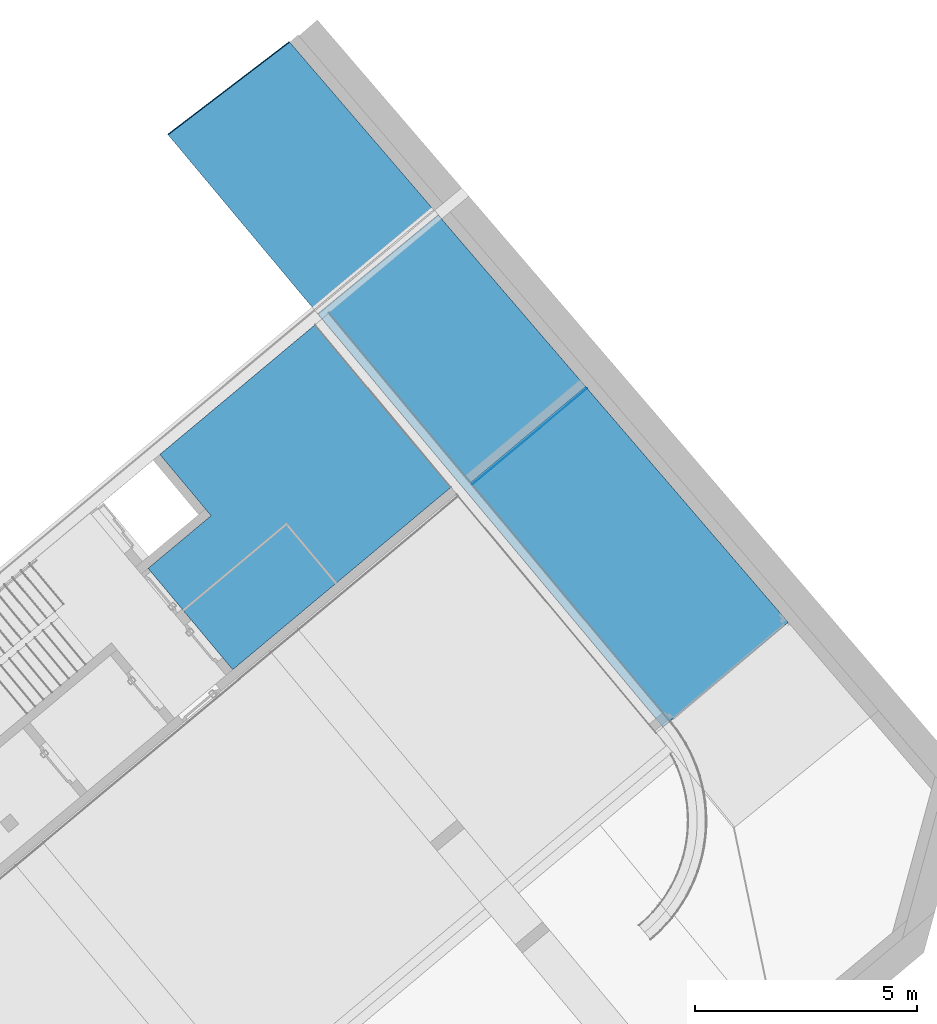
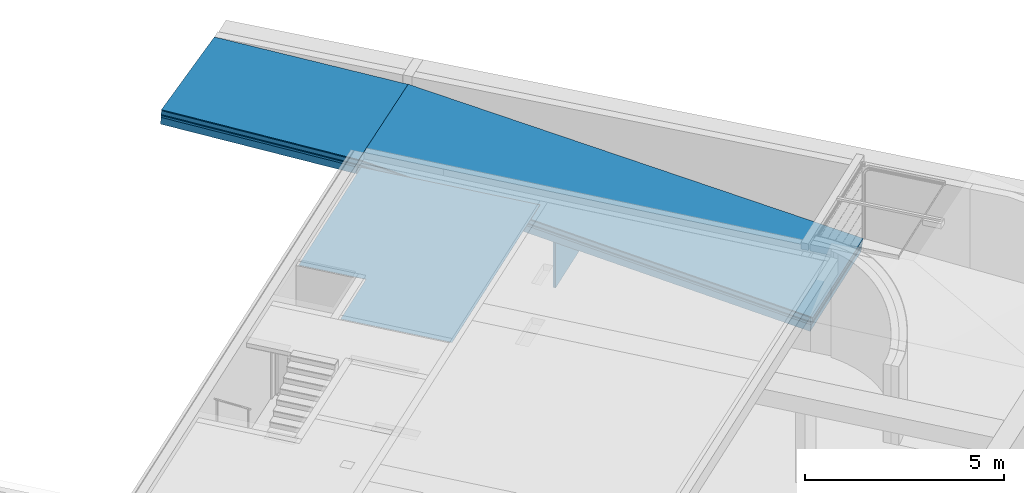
# One storey, part 12 of 14: 13 building element parts, 4 elements without a shape of their own.
"""IFC4 building model written with IfcOpenShell, lengths in metres."""

from ifc_helpers import new_model, entity, si_unit, converted_unit, derived_unit, direction, frame, origin_with_axes, place, context, subcontext, project, spatial, polygons, material, type_object, element, aggregate, save


model = new_model("IFC4")

# Units and contexts
model_context = context("Model", 3, precision=1e-05, world=origin_with_axes(), true_north=direction((0.0, 1.0)))
body_context = subcontext(model_context, "Body", "Model", "MODEL_VIEW")
ifc_project = project(units=[si_unit("LENGTHUNIT", "METRE"), si_unit("AREAUNIT", "SQUARE_METRE"), si_unit("VOLUMEUNIT", "CUBIC_METRE"), converted_unit("PLANEANGLEUNIT", "DEGREE", entity("IfcPlaneAngleMeasure", 0.0174532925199), si_unit("PLANEANGLEUNIT", "RADIAN"), dimensions=[0, 0, 0, 0, 0, 0, 0]), converted_unit("TIMEUNIT", "Year", entity("IfcTimeMeasure", 31556926.0), si_unit("TIMEUNIT", "SECOND"), dimensions=[0, 0, 1, 0, 0, 0, 0]), si_unit("MASSUNIT", "GRAM", prefix="KILO"), si_unit("THERMODYNAMICTEMPERATUREUNIT", "DEGREE_CELSIUS"), si_unit("LUMINOUSINTENSITYUNIT", "LUMEN"), si_unit("ENERGYUNIT", "JOULE", prefix="MEGA"), derived_unit("THERMALCONDUCTANCEUNIT", [(si_unit("POWERUNIT", "WATT"), 1), (si_unit("LENGTHUNIT", "METRE"), -1), (si_unit("THERMODYNAMICTEMPERATUREUNIT", "KELVIN"), -1)]), derived_unit("SPECIFICHEATCAPACITYUNIT", [(si_unit("ENERGYUNIT", "JOULE"), 1), (si_unit("MASSUNIT", "GRAM", prefix="KILO"), -1), (si_unit("THERMODYNAMICTEMPERATUREUNIT", "KELVIN"), -1)]), derived_unit("MASSDENSITYUNIT", [(si_unit("MASSUNIT", "GRAM", prefix="KILO"), 1), (si_unit("VOLUMEUNIT", "CUBIC_METRE"), -1)])], contexts=[model_context])

# Site, building, storey
site_placement = place(None, frame((-0.00153261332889, -0.00661245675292, 0.0), z_axis=(0.0, 0.0, 1.0), x_axis=(1.0, 0.0, 0.0)))
site = spatial("IfcSite", under=ifc_project, at=site_placement, Name="Gelände", CompositionType="ELEMENT")
building_placement = place(site_placement, origin_with_axes())
building = spatial("IfcBuilding", under=site, at=building_placement, Name="Gebäude", CompositionType="ELEMENT")
storey_placement = place(building_placement, frame((0.0, 0.0, -3.3), z_axis=(0.0, 0.0, 1.0), x_axis=(1.0, 0.0, 0.0)))
storey = spatial("IfcBuildingStorey", under=building, at=storey_placement, Name="UG1", CompositionType="ELEMENT", Elevation=-3.3)

# Covering, building element parts
covering_type_1 = type_object("IfcCoveringType", Name="LB 6,5 cm einfach Vorsatzschale 65", PredefinedType="NOTDEFINED")
covering_1_placement = place(storey_placement, frame((8.76827841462, 26.5724893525, 0.0), z_axis=(0.0, 0.0, 1.0), x_axis=(0.767365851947, 0.641209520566, 0.0)))
covering_1 = element("IfcCovering", 1, at=covering_1_placement, inside=storey, type_object=covering_type_1, Name="Wand-007", PredefinedType="NOTDEFINED")
ifc_material_1 = material(Name="Mineralwolle weich")
building_element_part_1_placement = place(covering_1_placement, origin_with_axes())
building_element_part_1 = element("IfcBuildingElementPart", 2, at=building_element_part_1_placement, material=ifc_material_1, Name="Mineralwolle weich", PredefinedType="NOTDEFINED", context=body_context, shape_type="Tessellation", body=[
    polygons([(3.36863805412, 1.12103109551e-06, 1.57079625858), (3.3686380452, -0.05, 1.56287710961), (3.3686380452, -0.05, 0.0), (3.3686380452, 0.0, 0.0), (0.0, -0.05, 1.55863254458), (0.0, 0.0, 1.56655151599), (0.0, -0.05, 0.0), (0.0, 0.0, 0.0)], [[[1, 2, 3, 4]], [[5, 2, 1, 6]], [[2, 5, 7, 3]], [[7, 8, 4, 3]], [[6, 1, 4, 8]], [[5, 6, 8, 7]]], closed=True),
])
ifc_material_2 = material(Name="Gipskarton")
building_element_part_2_placement = place(covering_1_placement, origin_with_axes())
building_element_part_2 = element("IfcBuildingElementPart", 3, at=building_element_part_2_placement, material=ifc_material_2, Name="Gipskarton", PredefinedType="NOTDEFINED", context=body_context, shape_type="Tessellation", body=[
    polygons([(3.3686380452, -0.05, 1.56287710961), (3.3686380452, -0.065, 1.56050141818), (3.3686380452, -0.065, 0.0), (3.3686380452, -0.05, 0.0), (0.0, -0.065, 1.55625685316), (0.0, -0.05, 1.55863254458), (0.0, -0.065, 0.0), (0.0, -0.05, 0.0)], [[[1, 2, 3, 4]], [[5, 2, 1, 6]], [[2, 5, 7, 3]], [[7, 8, 4, 3]], [[6, 1, 4, 8]], [[5, 6, 8, 7]]], closed=True),
])
aggregate(covering_1, [building_element_part_1, building_element_part_2])

# Ramp, building element parts
ramp_type = type_object("IfcRampType", Name="Rampe Neu 450", PredefinedType="NOTDEFINED")
ramp_1_placement = place(storey_placement, frame((1.94447080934, 34.4041497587, 2.63327259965), z_axis=(0.0, 0.0, 1.0), x_axis=(0.795125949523, 0.606444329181, 0.0)))
ramp_1 = element("IfcRamp", 4, at=ramp_1_placement, inside=storey, type_object=ramp_type, Name="Dach-001", PredefinedType="NOTDEFINED")
ifc_material_3 = material(Name="Asphalt")
building_element_part_3_placement = place(ramp_1_placement, origin_with_axes())
building_element_part_3 = element("IfcBuildingElementPart", 5, at=building_element_part_3_placement, material=ifc_material_3, Name="Asphalt", PredefinedType="NOTDEFINED", context=body_context, shape_type="Tessellation", body=[
    polygons([(0.234129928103, -5.26899043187, 0.167728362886), (3.74556037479, -5.14031860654, 0.167778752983), (3.74556037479, -5.14160378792, 0.193482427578), (0.234129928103, -5.26995725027, 0.187064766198), (3.74536069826, -5.13691496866, 0.168318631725), (0.233963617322, -5.26526714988, 0.168318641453), (3.74533169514, -5.13618652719, 0.163715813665), (3.44555025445, 0.00149812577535, 0.420599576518), (3.44555025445, 0.0, 0.450562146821), (0.0, 0.0, 0.450562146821), (0.0, 0.00149812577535, 0.420599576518), (0.233910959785, -5.26353043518, 0.157348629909)], [[[1, 2, 3, 4]], [[5, 2, 1, 6]], [[5, 7, 8, 9, 3, 2]], [[4, 3, 9, 10]], [[6, 1, 4, 10, 11, 12]], [[7, 5, 6, 12]], [[7, 12, 11, 8]], [[10, 9, 8, 11]]], closed=True),
])
ifc_material_4 = material(Name="Stahlbeton Decke")
building_element_part_4_placement = place(ramp_1_placement, origin_with_axes())
building_element_part_4 = element("IfcBuildingElementPart", 6, at=building_element_part_4_placement, material=ifc_material_4, Name="Stahlbeton Decke", PredefinedType="NOTDEFINED", context=body_context, shape_type="Tessellation", body=[
    polygons([(0.234129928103, -5.26296335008, 0.0471865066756), (3.74556037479, -5.13429152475, 0.0472368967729), (3.74556037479, -5.14010566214, 0.163519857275), (0.234129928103, -5.26845912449, 0.157102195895), (3.74461386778, -5.11815759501, 0.049796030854), (0.233394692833, -5.24650327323, 0.0497960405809), (3.7445805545, -5.11732089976, 0.0445091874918), (3.44555025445, 0.00749062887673, 0.300749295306), (3.44555025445, 0.00149812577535, 0.420599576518), (0.0, 0.00149812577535, 0.420599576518), (0.0, 0.00749062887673, 0.300749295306), (0.23333875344, -5.2446583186, 0.0381423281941)], [[[1, 2, 3, 4]], [[5, 2, 1, 6]], [[5, 7, 8, 9, 3, 2]], [[9, 10, 4, 3]], [[6, 1, 4, 10, 11, 12]], [[7, 5, 6, 12]], [[7, 12, 11, 8]], [[8, 11, 10, 9]]], closed=True),
])
ifc_material_5 = material(Name="Sperrschicht")
building_element_part_5_placement = place(ramp_1_placement, origin_with_axes())
building_element_part_5 = element("IfcBuildingElementPart", 7, at=building_element_part_5_placement, material=ifc_material_5, Name="Sperrschicht", PredefinedType="NOTDEFINED", context=body_context, shape_type="Tessellation", body=[
    polygons([(0.234129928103, -5.26096849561, 0.0072893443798), (0.234129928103, -5.26246662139, 0.0372519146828), (0.0, 0.00749062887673, 0.300749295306), (0.0, 0.00898875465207, 0.270786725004), (3.74556037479, -5.13261503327, 0.0137070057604), (3.74556037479, -5.13411315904, 0.0436695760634), (3.44555025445, 0.00749062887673, 0.300749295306), (3.44555025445, 0.00898875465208, 0.270786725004)], [[[1, 2, 3, 4]], [[5, 6, 2, 1]], [[3, 2, 6, 7]], [[4, 3, 7, 8]], [[4, 8, 5, 1]], [[8, 7, 6, 5]]], closed=True),
])
ifc_material_6 = material(Name="XPS")
building_element_part_6_placement = place(ramp_1_placement, origin_with_axes())
building_element_part_6 = element("IfcBuildingElementPart", 8, at=building_element_part_6_placement, material=ifc_material_6, Name="XPS", PredefinedType="NOTDEFINED", context=body_context, shape_type="Tessellation", body=[
    polygons([(0.0, 0.0119850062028, 0.210861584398), (0.234129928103, -5.25797224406, -0.0526357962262), (0.234129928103, -5.26096849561, 0.0072893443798), (0.0, 0.00898875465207, 0.270786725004), (3.44555025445, 0.0119850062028, 0.210861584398), (3.74556037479, -5.12961878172, -0.0462181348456), (3.74556037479, -5.13261503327, 0.0137070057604), (3.44555025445, 0.00898875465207, 0.270786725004)], [[[1, 2, 3, 4]], [[2, 1, 5, 6]], [[2, 6, 7, 3]], [[8, 4, 3, 7]], [[5, 1, 4, 8]], [[6, 5, 8, 7]]], closed=True),
])
building_element_part_7_placement = place(ramp_1_placement, origin_with_axes())
building_element_part_7 = element("IfcBuildingElementPart", 9, at=building_element_part_7_placement, material=ifc_material_4, Name="Stahlbeton Decke", PredefinedType="NOTDEFINED", context=body_context, shape_type="Tessellation", body=[
    polygons([(0.0, 0.0119850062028, 0.210861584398), (0.0, 0.0224718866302, 0.00112359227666), (0.234129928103, -5.24748536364, -0.262373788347), (0.234129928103, -5.25797224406, -0.0526357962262), (3.44555025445, 0.0119850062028, 0.210861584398), (3.44555025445, 0.0224718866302, 0.00112359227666), (3.74556037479, -5.11913190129, -0.255956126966), (3.74556037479, -5.12961878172, -0.0462181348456)], [[[1, 2, 3, 4]], [[5, 6, 2, 1]], [[3, 2, 6, 7]], [[4, 3, 7, 8]], [[5, 1, 4, 8]], [[8, 7, 6, 5]]], closed=True),
])
aggregate(ramp_1, [building_element_part_3, building_element_part_4, building_element_part_5, building_element_part_6, building_element_part_7])

# Space
space_placement = place(storey_placement, frame((8.10928015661, 32.5076602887, 0.0), z_axis=(0.0, 0.0, 1.0), x_axis=(-0.767366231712, -0.641209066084, 0.0)))
space = spatial("IfcSpace", under=storey, at=space_placement, Name="Beschichtung", CompositionType="ELEMENT", PredefinedType="NOTDEFINED")

# Ramp, building element parts
ramp_2_placement = place(space_placement, frame((3.51511428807, -0.133078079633, 2.37561258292), z_axis=(0.0, 0.0, 1.0), x_axis=(-0.999968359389, 0.00795488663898, 0.0)))
ramp_2 = element("IfcRamp", 10, at=ramp_2_placement, inside=space, type_object=ramp_type, Name="Dach-001", PredefinedType="NOTDEFINED")
building_element_part_8_placement = place(ramp_2_placement, origin_with_axes())
building_element_part_8 = element("IfcBuildingElementPart", 11, at=building_element_part_8_placement, material=ifc_material_3, Name="Asphalt", PredefinedType="NOTDEFINED", context=body_context, shape_type="Tessellation", body=[
    polygons([(-7.17183255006e-08, 0.00171041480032, 0.444810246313), (-7.17183255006e-08, 1.13942064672e-08, 0.455609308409), (3.51377557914, -5.00226526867e-08, 0.455609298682), (3.51377557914, 0.00469298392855, 0.425978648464), (3.51374725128, 0.00469298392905, 0.425978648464), (3.51376025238, 0.000701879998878, 0.451177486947), (1.33045639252e-05, 0.0, 0.444724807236), (2.46648535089e-05, 0.000674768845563, 0.431220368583), (3.53165670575e-05, 0.000966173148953, 0.425388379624), (0.0964259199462, -12.1186518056, -1.49417053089), (0.0964259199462, -12.1233448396, -1.46453988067), (3.77682829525, -12.0943327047, -1.45994480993), (3.77682829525, -12.0896396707, -1.48957546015), (3.51382246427, 0.0012843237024, 0.425438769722), (3.51377551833, 0.0, 0.451142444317)], [[[1, 2, 3, 4, 5, 6]], [[7, 8, 9, 10, 11, 2, 1]], [[2, 11, 12, 3]], [[4, 3, 12, 13]], [[9, 14, 5, 4, 13, 10]], [[15, 6, 5, 14]], [[7, 1, 6, 15]], [[8, 7, 15, 14, 9]], [[11, 10, 13, 12]]], closed=True),
])
building_element_part_9_placement = place(ramp_2_placement, origin_with_axes())
building_element_part_9 = element("IfcBuildingElementPart", 12, at=building_element_part_9_placement, material=ifc_material_4, Name="Stahlbeton Decke", PredefinedType="NOTDEFINED", context=body_context, shape_type="Tessellation", body=[
    polygons([(3.5137448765, 0.00542199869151, 0.421375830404), (1.59406739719e-05, 0.00643052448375, 0.415008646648), (0.000121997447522, 0.0234651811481, 0.30745605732), (-7.17183255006e-08, 0.0234651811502, 0.30745605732), (-7.17183255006e-08, 0.00469304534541, 0.425978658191), (3.51377557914, 0.00469298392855, 0.425978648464), (3.51377557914, 0.0234651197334, 0.307456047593), (3.51368610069, 0.0234651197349, 0.307456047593), (5.47245062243e-05, 0.00149712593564, 0.414762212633), (3.51383024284, 0.00149712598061, 0.421179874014), (0.000255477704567, 0.00698923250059, 0.304846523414), (3.51404262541, 0.00730738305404, 0.304896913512), (3.77682829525, -12.0708675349, -1.60809806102), (0.0964259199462, -12.0998796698, -1.61269313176), (0.0964259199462, -12.1186518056, -1.49417053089), (3.77682829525, -12.0896396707, -1.48957546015)], [[[1, 2, 3, 4, 5, 6, 7, 8]], [[9, 2, 1, 10]], [[11, 3, 2, 9]], [[11, 12, 8, 7, 13, 14, 4, 3]], [[5, 4, 14, 15]], [[16, 6, 5, 15]], [[16, 13, 7, 6]], [[10, 1, 8, 12]], [[10, 12, 11, 9]], [[15, 14, 13, 16]]], closed=True),
])
building_element_part_10_placement = place(ramp_2_placement, origin_with_axes())
building_element_part_10 = element("IfcBuildingElementPart", 13, at=building_element_part_10_placement, material=ifc_material_5, Name="Sperrschicht", PredefinedType="NOTDEFINED", context=body_context, shape_type="Tessellation", body=[
    polygons([(0.000151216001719, 0.0281582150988, 0.277825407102), (0.000310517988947, 0.00849499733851, 0.274711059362), (3.51409766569, 0.00881314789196, 0.274761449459), (3.51367081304, 0.0281581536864, 0.277825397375), (3.51377557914, 0.0281581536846, 0.277825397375), (3.77682829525, -12.066174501, -1.63772871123), (0.0964259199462, -12.0951866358, -1.64232378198), (-7.17183255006e-08, 0.0281582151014, 0.277825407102), (0.000133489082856, 0.025310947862, 0.295802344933), (0.000273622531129, 0.00748562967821, 0.294911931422), (3.51404914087, 0.00748562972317, 0.301329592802), (3.51368337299, 0.024302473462, 0.302169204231), (-7.17183255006e-08, 0.0234651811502, 0.30745605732), (3.51377557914, 0.0234651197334, 0.307456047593), (3.77682829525, -12.0708675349, -1.60809806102), (0.0964259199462, -12.0998796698, -1.61269313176)], [[[1, 2, 3, 4, 5, 6, 7, 8]], [[2, 1, 9, 10]], [[3, 2, 10, 11]], [[4, 3, 11, 12]], [[9, 1, 8, 13, 14, 5, 4, 12]], [[6, 5, 14, 15]], [[7, 6, 15, 16]], [[8, 7, 16, 13]], [[9, 12, 11, 10]], [[14, 13, 16, 15]]], closed=True),
])
building_element_part_11_placement = place(ramp_2_placement, origin_with_axes())
building_element_part_11 = element("IfcBuildingElementPart", 14, at=building_element_part_11_placement, material=ifc_material_6, Name="XPS", PredefinedType="NOTDEFINED", context=body_context, shape_type="Tessellation", body=[
    polygons([(3.51367081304, 0.0281581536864, 0.277825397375), (3.51364023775, 0.0375442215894, 0.218564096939), (3.51420774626, 0.0118246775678, 0.214490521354), (3.51409766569, 0.00881314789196, 0.274761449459), (3.51377557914, 0.0281581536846, 0.277825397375), (3.51377557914, 0.037544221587, 0.218564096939), (3.77682829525, -12.0567884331, -1.69699001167), (0.0964259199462, -12.0858005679, -1.70158508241), (-7.17183219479e-08, 0.0375442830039, 0.218564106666), (0.000209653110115, 0.0375442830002, 0.218564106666), (0.000420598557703, 0.0115065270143, 0.214440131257), (0.000310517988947, 0.00849499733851, 0.274711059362), (0.000151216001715, 0.0281582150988, 0.277825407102), (-7.17183255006e-08, 0.0281582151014, 0.277825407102), (0.0964259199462, -12.0951866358, -1.64232378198), (3.77682829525, -12.066174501, -1.63772871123)], [[[1, 2, 3, 4]], [[2, 1, 5, 6]], [[3, 2, 6, 7, 8, 9, 10, 11]], [[4, 3, 11, 12]], [[12, 13, 14, 15, 16, 5, 1, 4]], [[7, 6, 5, 16]], [[8, 7, 16, 15]], [[9, 8, 15, 14]], [[10, 9, 14, 13]], [[11, 10, 13, 12]]], closed=True),
])
building_element_part_12_placement = place(ramp_2_placement, origin_with_axes())
building_element_part_12 = element("IfcBuildingElementPart", 15, at=building_element_part_12_placement, material=ifc_material_4, Name="Stahlbeton Decke", PredefinedType="NOTDEFINED", context=body_context, shape_type="Tessellation", body=[
    polygons([(3.51420774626, 0.0118246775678, 0.214490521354), (3.51364023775, 0.0375442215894, 0.218564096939), (3.51353322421, 0.0703954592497, 0.0111495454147), (3.51459302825, 0.0223650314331, 0.00354227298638), (0.000420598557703, 0.0115065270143, 0.214440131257), (0.000209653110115, 0.0375442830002, 0.218564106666), (-7.17183219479e-08, 0.0375442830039, 0.218564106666), (0.0964259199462, -12.0858005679, -1.70158508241), (3.77682829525, -12.0567884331, -1.69699001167), (3.51377557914, 0.037544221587, 0.218564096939), (3.51377557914, 0.0703954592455, 0.011149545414), (0.000805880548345, 0.0220468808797, 0.00349188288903), (3.77682829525, -12.0239371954, -1.90440456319), (0.0964259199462, -12.0529493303, -1.90899963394), (-7.17183219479e-08, 0.0703955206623, 0.0111495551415), (0.000414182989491, 0.0703955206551, 0.0111495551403)], [[[1, 2, 3, 4]], [[1, 5, 6, 7, 8, 9, 10, 2]], [[11, 3, 2, 10]], [[12, 4, 3, 11, 13, 14, 15, 16]], [[5, 1, 4, 12]], [[5, 12, 16, 6]], [[6, 16, 15, 7]], [[8, 7, 15, 14]], [[9, 8, 14, 13]], [[10, 9, 13, 11]]], closed=True),
])
aggregate(ramp_2, [building_element_part_8, building_element_part_9, building_element_part_10, building_element_part_11, building_element_part_12])

# Covering, building element part
covering_type_2 = type_object("IfcCoveringType", Name="Vorsatzschale Garage 130", PredefinedType="NOTDEFINED")
covering_2_placement = place(storey_placement, frame((1.75678601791, 27.1995340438, 2.88), z_axis=(0.0, 0.0, 1.0), x_axis=(1.0, 0.0, 0.0)))
covering_2 = element("IfcCovering", 16, at=covering_2_placement, inside=storey, type_object=covering_type_2, Name="Decke-005", PredefinedType="NOTDEFINED")
ifc_material_7 = material(Name="Zementputz")
building_element_part_13_placement = place(covering_2_placement, origin_with_axes())
building_element_part_13 = element("IfcBuildingElementPart", 17, at=building_element_part_13_placement, material=ifc_material_7, Name="Zementputz", PredefinedType="NOTDEFINED", context=body_context, shape_type="Tessellation", body=[
    polygons([(3.4979731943, 2.922896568, -0.13), (3.4979731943, 2.922896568, -0.12), (6.5608470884, -0.74297122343, -0.12), (6.5608470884, -0.74297122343, -0.13), (0.0, 0.0, -0.12), (0.0, 0.0, -0.13), (1.15425419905, -1.38117227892, -0.12), (-0.26596196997, -2.56790292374, -0.12), (1.64293460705, -4.85237001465, -0.12), (1.64293460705, -4.85237001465, -0.13), (-0.26596196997, -2.56790292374, -0.13), (1.15425419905, -1.38117227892, -0.13)], [[[1, 2, 3, 4]], [[5, 2, 1, 6]], [[2, 5, 7, 8, 9, 3]], [[4, 3, 9, 10]], [[6, 1, 4, 10, 11, 12]], [[5, 6, 12, 7]], [[11, 8, 7, 12]], [[10, 9, 8, 11]]], closed=True),
])
aggregate(covering_2, [building_element_part_13])

save(model, "model.ifc")
